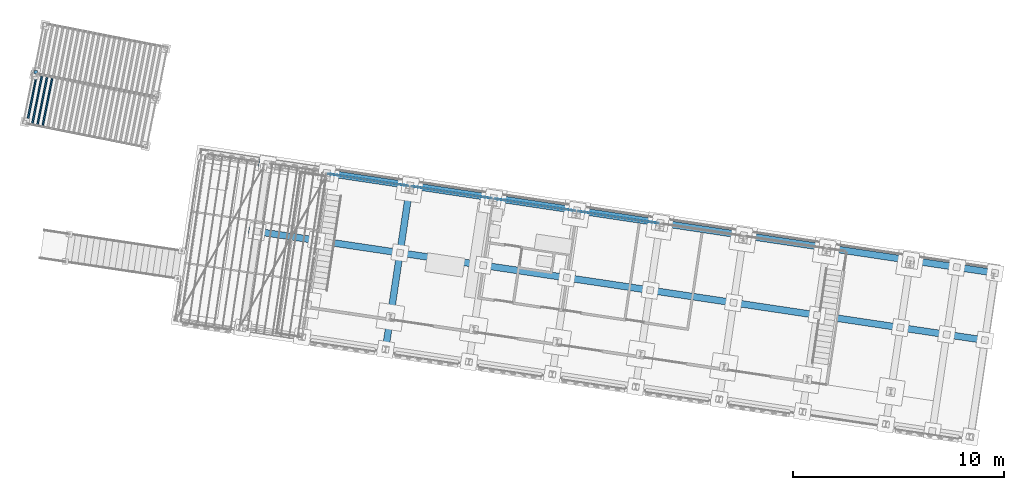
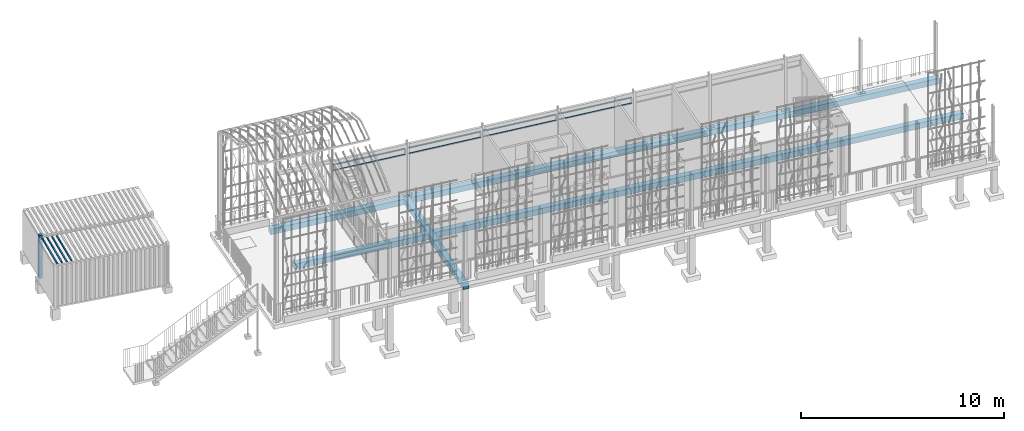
# One storey, part 84 of 143: 13 members, 3 beams, 3 elements without a shape of their own.
"""IFC4 building model written with IfcOpenShell, lengths in metres."""

from ifc_helpers import new_model, si_unit, direction, frame, origin_with_axes, place, context, subcontext, project, spatial, polyline, rectangle, outline, extrude, material, material_profile, profile_set, profile_usage, type_object, element, aggregate, save


model = new_model("IFC4")

# Units and contexts
model_context = context("Model", 3, precision=1e-05, world=origin_with_axes(), true_north=direction((0.0, 1.0)))
body_context = subcontext(model_context, "Body", "Model", "MODEL_VIEW")
ifc_project = project(units=[si_unit("VOLUMEUNIT", "CUBIC_METRE"), si_unit("LENGTHUNIT", "METRE"), si_unit("AREAUNIT", "SQUARE_METRE")], contexts=[model_context])

# Site, building, storey
site_placement = place(None, origin_with_axes())
site = spatial("IfcSite", under=ifc_project, at=site_placement, Name="Lares · Rua das Mercês · artigo 4771")
building_placement = place(site_placement, frame((15.0, 9.7, 15.8), z_axis=(0.0, 0.0, 1.0), x_axis=(0.989015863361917, -0.147809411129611, 0.0)))
building = spatial("IfcBuilding", under=site, at=building_placement, Name="Casa Sobreposta")
storey_placement = place(building_placement, origin_with_axes())
storey = spatial("IfcBuildingStorey", under=building, at=storey_placement, Name="00 · Habitação e estacionamento", Elevation=15.8)

# Members
ifc_material_1 = material(Name="Aço pintado / Stahl lackiert", Category="steel")
ifc_material_profile = material_profile(ifc_material_1, rectangle(XDim=0.035, YDim=0.035))
ifc_profile_set = profile_set([ifc_material_profile], Name="R0.035")
ifc_profile_usage_1 = profile_usage(ifc_profile_set)
member_type = type_object("IfcMemberType", Name="R0.035 / steel", PredefinedType="NOTDEFINED", material=ifc_profile_set)
member_1_placement = place(storey_placement, frame((0.08, 6.4, 2.35), z_axis=(1.0, 0.0, 0.0), x_axis=(0.0, -1.0, 0.0)))
element("IfcMember", 1, at=member_1_placement, inside=storey, type_object=member_type, material=ifc_profile_usage_1, Name="Rasgo norte 1 · travessa", context=body_context, shape_type="SweptSolid", body=[
    extrude(rectangle(XDim=0.035, YDim=0.035), origin_with_axes(), (0.0, 0.0, 1.0), 3.84),
])
ifc_profile_usage_2 = profile_usage(ifc_profile_set)
member_2_placement = place(storey_placement, frame((0.08, 6.4, 2.7), z_axis=(1.0, 0.0, 0.0), x_axis=(0.0, -1.0, 0.0)))
element("IfcMember", 2, at=member_2_placement, inside=storey, type_object=member_type, material=ifc_profile_usage_2, Name="Rasgo norte 1 · travessa", context=body_context, shape_type="SweptSolid", body=[
    extrude(rectangle(XDim=0.035, YDim=0.035), origin_with_axes(), (0.0, 0.0, 1.0), 3.84),
])
ifc_profile_usage_3 = profile_usage(ifc_profile_set)
member_3_placement = place(storey_placement, frame((4.08, 6.4, 2.35), z_axis=(1.0, 0.0, 0.0), x_axis=(0.0, -1.0, 0.0)))
element("IfcMember", 3, at=member_3_placement, inside=storey, type_object=member_type, material=ifc_profile_usage_3, Name="Rasgo norte 2 · travessa", context=body_context, shape_type="SweptSolid", body=[
    extrude(rectangle(XDim=0.035, YDim=0.035), origin_with_axes(), (0.0, 0.0, 1.0), 3.84),
])
ifc_profile_usage_4 = profile_usage(ifc_profile_set)
member_4_placement = place(storey_placement, frame((4.08, 6.4, 2.7), z_axis=(1.0, 0.0, 0.0), x_axis=(0.0, -1.0, 0.0)))
element("IfcMember", 4, at=member_4_placement, inside=storey, type_object=member_type, material=ifc_profile_usage_4, Name="Rasgo norte 2 · travessa", context=body_context, shape_type="SweptSolid", body=[
    extrude(rectangle(XDim=0.035, YDim=0.035), origin_with_axes(), (0.0, 0.0, 1.0), 3.84),
])
ifc_profile_usage_5 = profile_usage(ifc_profile_set)
member_5_placement = place(storey_placement, frame((8.08, 6.4, 2.35), z_axis=(1.0, 0.0, 0.0), x_axis=(0.0, -1.0, 0.0)))
element("IfcMember", 5, at=member_5_placement, inside=storey, type_object=member_type, material=ifc_profile_usage_5, Name="Rasgo norte 3 · travessa", context=body_context, shape_type="SweptSolid", body=[
    extrude(rectangle(XDim=0.035, YDim=0.035), origin_with_axes(), (0.0, 0.0, 1.0), 3.84),
])
ifc_profile_usage_6 = profile_usage(ifc_profile_set)
member_6_placement = place(storey_placement, frame((8.08, 6.4, 2.7), z_axis=(1.0, 0.0, 0.0), x_axis=(0.0, -1.0, 0.0)))
element("IfcMember", 6, at=member_6_placement, inside=storey, type_object=member_type, material=ifc_profile_usage_6, Name="Rasgo norte 3 · travessa", context=body_context, shape_type="SweptSolid", body=[
    extrude(rectangle(XDim=0.035, YDim=0.035), origin_with_axes(), (0.0, 0.0, 1.0), 3.84),
])
ifc_profile_usage_7 = profile_usage(ifc_profile_set)
member_7_placement = place(storey_placement, frame((12.08, 6.4, 2.35), z_axis=(1.0, 0.0, 0.0), x_axis=(0.0, -1.0, 0.0)))
element("IfcMember", 7, at=member_7_placement, inside=storey, type_object=member_type, material=ifc_profile_usage_7, Name="Rasgo norte 4 · travessa", context=body_context, shape_type="SweptSolid", body=[
    extrude(rectangle(XDim=0.035, YDim=0.035), origin_with_axes(), (0.0, 0.0, 1.0), 3.84),
])
ifc_profile_usage_8 = profile_usage(ifc_profile_set)
member_8_placement = place(storey_placement, frame((12.08, 6.4, 2.7), z_axis=(1.0, 0.0, 0.0), x_axis=(0.0, -1.0, 0.0)))
element("IfcMember", 8, at=member_8_placement, inside=storey, type_object=member_type, material=ifc_profile_usage_8, Name="Rasgo norte 4 · travessa", context=body_context, shape_type="SweptSolid", body=[
    extrude(rectangle(XDim=0.035, YDim=0.035), origin_with_axes(), (0.0, 0.0, 1.0), 3.84),
])

# Assembly, beams
assembly_1_placement = place(storey_placement, origin_with_axes())
assembly_1 = element("IfcElementAssembly", 9, at=assembly_1_placement, inside=storey, Name="Pódio · terraço, casa térrea e cisterna", ObjectType="CISTERN_PODIUM", PredefinedType="USERDEFINED")
ifc_material_2 = material(Name="Betão armado / Stahlbeton", Category="concrete")
beam_1_placement = place(assembly_1_placement, frame((0.0, 0.0, -0.59), z_axis=(0.0, 0.0, 1.0), x_axis=(1.0, 0.0, 0.0)))
beam_1 = element("IfcBeam", 10, at=beam_1_placement, material=ifc_material_2, Name="Pódio suspenso · viga transversal", context=body_context, shape_type="SweptSolid", body=[
    extrude(outline(polyline([(4.16, -1.59), (4.16, 6.59), (3.84, 6.59), (3.84, -1.59), (4.16, -1.59)])), origin_with_axes(), (0.0, 0.0, 1.0), 0.34),
])
beam_2_placement = place(assembly_1_placement, frame((0.0, 0.0, -0.59), z_axis=(0.0, 0.0, 1.0), x_axis=(1.0, 0.0, 0.0)))
beam_2 = element("IfcBeam", 11, at=beam_2_placement, material=ifc_material_2, Name="Pódio suspenso · viga longitudinal", context=body_context, shape_type="SweptSolid", body=[
    extrude(outline(polyline([(32.21, 3.04), (32.21, 3.36), (-3.25, 3.36), (-3.25, 3.04), (32.21, 3.04)])), origin_with_axes(), (0.0, 0.0, 1.0), 0.34),
])
beam_3_placement = place(assembly_1_placement, frame((0.0, 0.0, -0.59), z_axis=(0.0, 0.0, 1.0), x_axis=(1.0, 0.0, 0.0)))
beam_3 = element("IfcBeam", 12, at=beam_3_placement, material=ifc_material_2, Name="Pódio suspenso · viga longitudinal", context=body_context, shape_type="SweptSolid", body=[
    extrude(outline(polyline([(32.21, 6.27), (32.21, 6.59), (-3.25, 6.59), (-3.25, 6.27), (32.21, 6.27)])), origin_with_axes(), (0.0, 0.0, 1.0), 0.34),
])
aggregate(assembly_1, [beam_1, beam_2, beam_3])

# Assembly, member
assembly_2_placement = place(storey_placement, frame((-14.4335953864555, 9.04888612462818, 0.0), z_axis=(0.0, 0.0, 1.0), x_axis=(0.999032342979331, -0.0439815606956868, 0.0)))
assembly_2 = element("IfcElementAssembly", 13, at=assembly_2_placement, inside=storey, Name="Contentor existente 1 · 6 m", ObjectType="EXISTING_SHIPPING_CONTAINER", PredefinedType="USERDEFINED")
ifc_material_3 = material(Name="Contentor · pintura 1", Category="steel")
member_9_placement = place(assembly_2_placement, frame((0.0, 0.0, -2.16314181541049), z_axis=(0.0, 0.0, 1.0), x_axis=(1.0, 0.0, 0.0)))
member_9 = element("IfcMember", 14, at=member_9_placement, material=ifc_material_3, Name="Contentor · canto", context=body_context, shape_type="SweptSolid", body=[
    extrude(outline(polyline([(0.16, 0.0), (0.16, 0.16), (0.0, 0.16), (0.0, 0.0), (0.16, 0.0)])), origin_with_axes(), (0.0, 0.0, 1.0), 2.59),
])
aggregate(assembly_2, [member_9])

# Assembly, members
assembly_3_placement = place(storey_placement, frame((-14.5932944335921, 6.63122214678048, 0.0), z_axis=(0.0, 0.0, 1.0), x_axis=(0.998832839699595, -0.0483007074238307, 0.0)))
assembly_3 = element("IfcElementAssembly", 15, at=assembly_3_placement, inside=storey, Name="Contentor existente 2 · 6 m", ObjectType="EXISTING_SHIPPING_CONTAINER", PredefinedType="USERDEFINED")
ifc_material_4 = material(Name="Contentor · pintura 2", Category="steel")
member_10_placement = place(assembly_3_placement, frame((0.0, 0.0, 0.266248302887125), z_axis=(0.0, 0.0, 1.0), x_axis=(1.0, 0.0, 0.0)))
member_10 = element("IfcMember", 16, at=member_10_placement, material=ifc_material_4, Name="Contentor · nervura cobertura", context=body_context, shape_type="SweptSolid", body=[
    extrude(outline(polyline([(0.23, 0.08), (0.23, 2.36), (0.15, 2.36), (0.15, 0.08), (0.23, 0.08)])), origin_with_axes(), (0.0, 0.0, 1.0), 0.018),
])
member_11_placement = place(assembly_3_placement, frame((0.0, 0.0, 0.266248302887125), z_axis=(0.0, 0.0, 1.0), x_axis=(1.0, 0.0, 0.0)))
member_11 = element("IfcMember", 17, at=member_11_placement, material=ifc_material_4, Name="Contentor · nervura cobertura", context=body_context, shape_type="SweptSolid", body=[
    extrude(outline(polyline([(0.48, 0.08), (0.48, 2.36), (0.4, 2.36), (0.4, 0.08), (0.48, 0.08)])), origin_with_axes(), (0.0, 0.0, 1.0), 0.018),
])
member_12_placement = place(assembly_3_placement, frame((0.0, 0.0, 0.266248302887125), z_axis=(0.0, 0.0, 1.0), x_axis=(1.0, 0.0, 0.0)))
member_12 = element("IfcMember", 18, at=member_12_placement, material=ifc_material_4, Name="Contentor · nervura cobertura", context=body_context, shape_type="SweptSolid", body=[
    extrude(outline(polyline([(0.73, 0.08), (0.73, 2.36), (0.65, 2.36), (0.65, 0.08), (0.73, 0.08)])), origin_with_axes(), (0.0, 0.0, 1.0), 0.018),
])
member_13_placement = place(assembly_3_placement, frame((0.0, 0.0, 0.266248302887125), z_axis=(0.0, 0.0, 1.0), x_axis=(1.0, 0.0, 0.0)))
member_13 = element("IfcMember", 19, at=member_13_placement, material=ifc_material_4, Name="Contentor · nervura cobertura", context=body_context, shape_type="SweptSolid", body=[
    extrude(outline(polyline([(0.98, 0.08), (0.98, 2.36), (0.9, 2.36), (0.9, 0.08), (0.98, 0.08)])), origin_with_axes(), (0.0, 0.0, 1.0), 0.018),
])
aggregate(assembly_3, [member_10, member_11, member_12, member_13])

save(model, "model.ifc")
